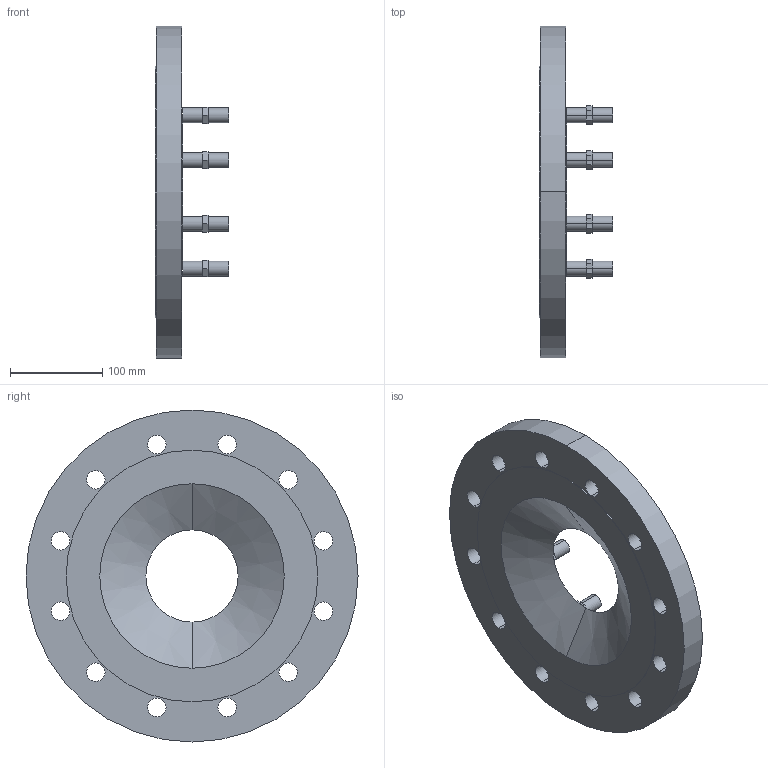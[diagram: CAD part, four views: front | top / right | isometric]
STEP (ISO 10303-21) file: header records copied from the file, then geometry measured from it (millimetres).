
FILE_DESCRIPTION(('STEP AP214'),'1');
FILE_NAME('S:/EK/USER/CAT6/3DHomepage_27-04-2012/VDI-Rohrsysteme_und_Stahlrohre/0802_(8110)/0802_PN16_DN200_DN100.STP','2013-01-25T07:28:13',(' '),(' '),'Spatial InterOp 3D',' ',' ');
FILE_SCHEMA(('automotive_design'));
Length unit declared in the file: millimetre
Products named in the file (18): 3D-Objekt
Bounding box: 80 x 360 x 360 mm (x, y, z)
Volume: 2368654.7 mm3; surface area: 317422.4 mm2
Topology: 18 solids, 18 shells, 135 faces, 294 edges, 196 vertices
Faces by surface type: plane 85, cylinder 48, cone 2
Entity records: 5260 total; most frequent: DIRECTION 700, CARTESIAN_POINT 643, ORIENTED_EDGE 588, EDGE_CURVE 294, AXIS2_PLACEMENT_3D 253, VERTEX_POINT 196, LINE 194, VECTOR 194
